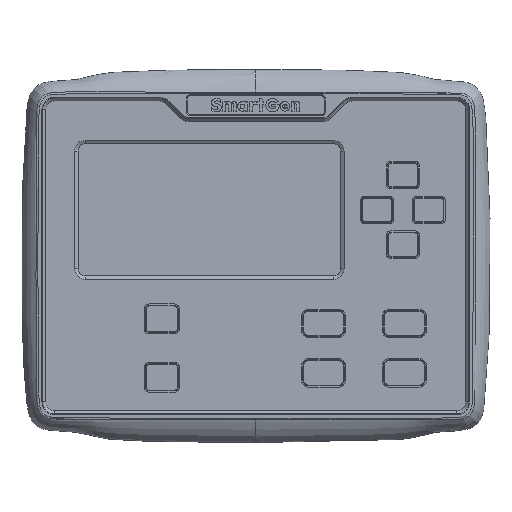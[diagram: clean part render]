
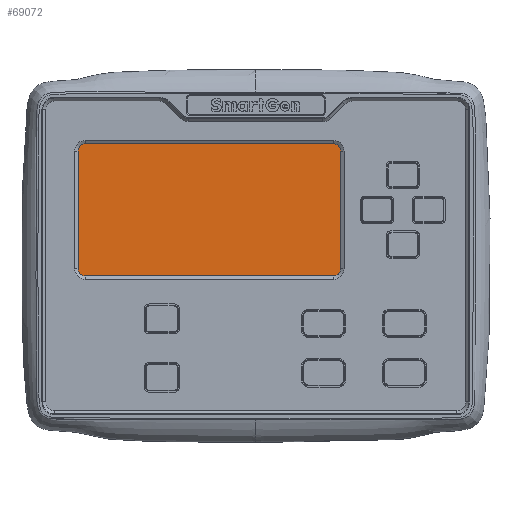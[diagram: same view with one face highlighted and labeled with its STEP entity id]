
A CAD part, top view. The second image highlights one B-rep face of the part: STEP entity #69072.
In plain terms, the highlighted planar face has unit normal (0, 0, 1).
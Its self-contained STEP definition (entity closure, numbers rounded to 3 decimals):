
#3260 = VERTEX_POINT ( 'NONE', #70473 ) ;
#6070 = EDGE_CURVE ( 'NONE', #32730, #33941, #131591, .T. ) ;
#6997 = FACE_OUTER_BOUND ( 'NONE', #169525, .T. ) ;
#9001 = CARTESIAN_POINT ( 'NONE',  ( 37.769, -5.675, -2.5 ) ) ;
#17420 = DIRECTION ( 'NONE',  ( 0., 1., 0. ) ) ;
#17656 = EDGE_CURVE ( 'NONE', #33941, #58962, #48223, .T. ) ;
#18363 = CARTESIAN_POINT ( 'NONE',  ( -75.931, 46.725, -2.5 ) ) ;
#18420 = ORIENTED_EDGE ( 'NONE', *, *, #28204, .F. ) ;
#21725 = CARTESIAN_POINT ( 'NONE',  ( -78.931, -8.875, -2.5 ) ) ;
#22958 = VECTOR ( 'NONE', #62334, 1000. ) ;
#27430 = EDGE_CURVE ( 'NONE', #134368, #88164, #92750, .T. ) ;
#27799 = AXIS2_PLACEMENT_3D ( 'NONE', #162769, #93917, #133667 ) ;
#28204 = EDGE_CURVE ( 'NONE', #3260, #134368, #35327, .T. ) ;
#30688 = ORIENTED_EDGE ( 'NONE', *, *, #95967, .T. ) ;
#30923 = CARTESIAN_POINT ( 'NONE',  ( 34.569, -5.675, -2.5 ) ) ;
#32730 = VERTEX_POINT ( 'NONE', #9001 ) ;
#33941 = VERTEX_POINT ( 'NONE', #162896 ) ;
#35327 = LINE ( 'NONE', #36191, #121256 ) ;
#36191 = CARTESIAN_POINT ( 'NONE',  ( -79.131, -8.675, -2.5 ) ) ;
#38140 = VERTEX_POINT ( 'NONE', #139563 ) ;
#42249 = VECTOR ( 'NONE', #17420, 1000. ) ;
#43993 = CARTESIAN_POINT ( 'NONE',  ( -75.931, -8.875, -2.5 ) ) ;
#44085 = AXIS2_PLACEMENT_3D ( 'NONE', #30923, #138669, #98897 ) ;
#45725 = AXIS2_PLACEMENT_3D ( 'NONE', #127960, #167707, #142086 ) ;
#48223 = LINE ( 'NONE', #21725, #22958 ) ;
#55989 = CIRCLE ( 'NONE', #27799, 3.2 ) ;
#58962 = VERTEX_POINT ( 'NONE', #43993 ) ;
#62334 = DIRECTION ( 'NONE',  ( -1., 0., 0. ) ) ;
#69072 = ADVANCED_FACE ( 'NONE', ( #6997 ), #156197, .T. ) ;
#70473 = CARTESIAN_POINT ( 'NONE',  ( -79.131, -5.675, -2.5 ) ) ;
#72207 = DIRECTION ( 'NONE',  ( 0., 0., -1. ) ) ;
#74246 = LINE ( 'NONE', #128134, #99677 ) ;
#84517 = CARTESIAN_POINT ( 'NONE',  ( 37.769, 20.525, -2.5 ) ) ;
#88164 = VERTEX_POINT ( 'NONE', #158340 ) ;
#89117 = ORIENTED_EDGE ( 'NONE', *, *, #27430, .F. ) ;
#92750 = CIRCLE ( 'NONE', #152120, 3.2 ) ;
#93917 = DIRECTION ( 'NONE',  ( 0., 0., -1. ) ) ;
#95967 = EDGE_CURVE ( 'NONE', #32730, #148216, #151657, .T. ) ;
#98171 = EDGE_CURVE ( 'NONE', #38140, #88164, #74246, .T. ) ;
#98897 = DIRECTION ( 'NONE',  ( 1., 0., 0. ) ) ;
#99677 = VECTOR ( 'NONE', #168765, 1000. ) ;
#107098 = EDGE_CURVE ( 'NONE', #38140, #148216, #55989, .T. ) ;
#113929 = CARTESIAN_POINT ( 'NONE',  ( -79.131, 46.725, -2.5 ) ) ;
#118814 = AXIS2_PLACEMENT_3D ( 'NONE', #125409, #165177, #137804 ) ;
#121256 = VECTOR ( 'NONE', #142205, 1000. ) ;
#125409 = CARTESIAN_POINT ( 'NONE',  ( -75.931, -5.675, -2.5 ) ) ;
#126084 = DIRECTION ( 'NONE',  ( 1., 0., 0. ) ) ;
#127960 = CARTESIAN_POINT ( 'NONE',  ( -78.931, -8.675, -2.5 ) ) ;
#128134 = CARTESIAN_POINT ( 'NONE',  ( -20.681, 49.925, -2.5 ) ) ;
#131591 = CIRCLE ( 'NONE', #44085, 3.2 ) ;
#133667 = DIRECTION ( 'NONE',  ( 1., 0., 0. ) ) ;
#134205 = EDGE_CURVE ( 'NONE', #58962, #3260, #172385, .T. ) ;
#134368 = VERTEX_POINT ( 'NONE', #113929 ) ;
#137804 = DIRECTION ( 'NONE',  ( 1., 0., 0. ) ) ;
#138669 = DIRECTION ( 'NONE',  ( 0., 0., -1. ) ) ;
#139563 = CARTESIAN_POINT ( 'NONE',  ( 34.569, 49.925, -2.5 ) ) ;
#139961 = ORIENTED_EDGE ( 'NONE', *, *, #6070, .F. ) ;
#142086 = DIRECTION ( 'NONE',  ( 0., -1., 0. ) ) ;
#142105 = ORIENTED_EDGE ( 'NONE', *, *, #98171, .T. ) ;
#142205 = DIRECTION ( 'NONE',  ( 0., 1., 0. ) ) ;
#148216 = VERTEX_POINT ( 'NONE', #159620 ) ;
#151657 = LINE ( 'NONE', #84517, #42249 ) ;
#152120 = AXIS2_PLACEMENT_3D ( 'NONE', #18363, #72207, #126084 ) ;
#156197 = PLANE ( 'NONE',  #45725 ) ;
#158340 = CARTESIAN_POINT ( 'NONE',  ( -75.931, 49.925, -2.5 ) ) ;
#159620 = CARTESIAN_POINT ( 'NONE',  ( 37.769, 46.725, -2.5 ) ) ;
#162364 = ORIENTED_EDGE ( 'NONE', *, *, #134205, .F. ) ;
#162769 = CARTESIAN_POINT ( 'NONE',  ( 34.569, 46.725, -2.5 ) ) ;
#162896 = CARTESIAN_POINT ( 'NONE',  ( 34.569, -8.875, -2.5 ) ) ;
#163331 = ORIENTED_EDGE ( 'NONE', *, *, #107098, .F. ) ;
#165177 = DIRECTION ( 'NONE',  ( 0., 0., -1. ) ) ;
#167707 = DIRECTION ( 'NONE',  ( 0., 0., 1. ) ) ;
#168765 = DIRECTION ( 'NONE',  ( -1., 0., 0. ) ) ;
#169525 = EDGE_LOOP ( 'NONE', ( #18420, #162364, #170588, #139961, #30688, #163331, #142105, #89117 ) ) ;
#170588 = ORIENTED_EDGE ( 'NONE', *, *, #17656, .F. ) ;
#172385 = CIRCLE ( 'NONE', #118814, 3.2 ) ;
